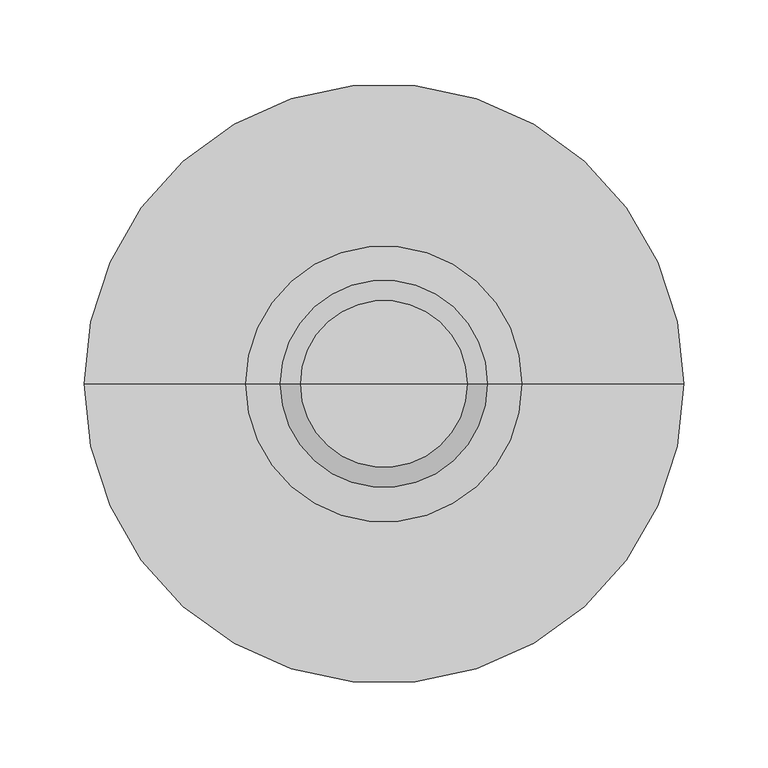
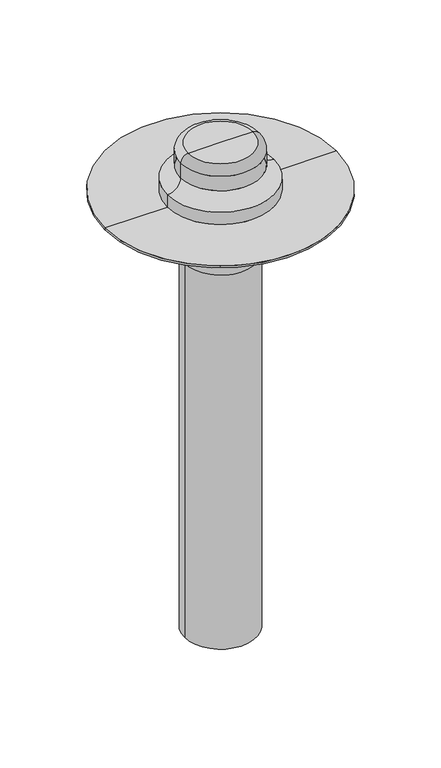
"""IFC4 building model written with IfcOpenShell, lengths in millimetres: flow terminal geometry, BIMLIB_Воронка_Кровельная_Fachmann_VM : 110х720."""

from ifc_helpers import new_model, si_unit, point, frame, origin, origin_with_axes, place, context, project, spatial, polyline, circle_curve, ellipse_curve, trimmed, source, transform, mapped, element, save
from ifc_brep_helpers import plane_surface, cylinder_surface, revolved_surface, advanced_brep


def flow_terminal_2865b695(model_context):
    return source(origin(), model_context, "Body", "AdvancedBrep", [
        advanced_brep(
        [(55.0, 0.0, -705.0), (-55.0, 0.0, -705.0), (-55.0, 0.0, -98.0), (55.0, 0.0, -98.0), (-113.0, 0.0, -9.0), (113.0, 0.0, -9.0), (113.0, 0.0, -32.0), (-113.0, 0.0, -32.0), (0.0, 0.0, 0.0), (138.0, 0.0, 0.0), (-138.0, 0.0, 0.0), (-90.0, 0.0, -32.0), (90.0, 0.0, -32.0), (90.0, 0.0, -40.0), (-90.0, 0.0, -40.0)],
        [
            (0, 1, circle_curve(frame((0.0, 0.0, -705.0), z_axis=(0.0, 0.0, -1.0), x_axis=(-1.0, 0.0, 0.0)), 55.0)),
            (1, 0, circle_curve(frame((0.0, 0.0, -705.0), z_axis=(0.0, 0.0, -1.0), x_axis=(-1.0, 0.0, 0.0)), 55.0)),
            (1, 2),
            (2, 3, circle_curve(frame((0.0, 0.0, -98.0), z_axis=(0.0, 0.0, -1.0), x_axis=(-1.0, 0.0, 0.0)), 55.0)),
            (3, 0),
            (3, 2, circle_curve(frame((0.0, 0.0, -98.0), z_axis=(0.0, 0.0, -1.0), x_axis=(-1.0, 0.0, 0.0)), 55.0)),
            (4, 5, circle_curve(frame((0.0, 0.0, -9.0), z_axis=(0.0, 0.0, -1.0), x_axis=(1.0, 0.0, 0.0)), 113.0)),
            (5, 6),
            (6, 7, circle_curve(frame((0.0, 0.0, -32.0), z_axis=(0.0, 0.0, 1.0), x_axis=(1.0, 0.0, 0.0)), 113.0)),
            (7, 4),
            (5, 4, circle_curve(frame((0.0, 0.0, -9.0), z_axis=(0.0, 0.0, -1.0), x_axis=(1.0, 0.0, 0.0)), 113.0)),
            (7, 6, circle_curve(frame((0.0, 0.0, -32.0), z_axis=(0.0, 0.0, 1.0), x_axis=(1.0, 0.0, 0.0)), 113.0)),
            (8, 9),
            (9, 10, circle_curve(origin_with_axes(), 138.0)),
            (10, 8),
            (10, 9, circle_curve(origin_with_axes(), 138.0)),
            (4, 10),
            (9, 5),
            (11, 12, circle_curve(frame((0.0, 0.0, -32.0), z_axis=(0.0, 0.0, -1.0), x_axis=(1.0, 0.0, 0.0)), 90.0)),
            (12, 13),
            (13, 14, circle_curve(frame((0.0, 0.0, -40.0), z_axis=(0.0, 0.0, 1.0), x_axis=(1.0, 0.0, 0.0)), 90.0)),
            (14, 11),
            (12, 11, circle_curve(frame((0.0, 0.0, -32.0), z_axis=(0.0, 0.0, -1.0), x_axis=(1.0, 0.0, 0.0)), 90.0)),
            (14, 13, circle_curve(frame((0.0, 0.0, -40.0), z_axis=(0.0, 0.0, 1.0), x_axis=(1.0, 0.0, 0.0)), 90.0)),
            (6, 12),
            (11, 7),
            (13, 3),
            (2, 14),
        ],
        [
            plane_surface(frame((-55.0, 0.0, -705.0), z_axis=(0.0, 0.0, -1.0), x_axis=(0.0, 1.0, 0.0))),
            cylinder_surface(frame((0.0, 0.0, -705.0), z_axis=(0.0, 0.0, 1.0), x_axis=(-1.0, 0.0, 0.0)), 55.0),
            cylinder_surface(frame((0.0, 0.0, 159.0), z_axis=(0.0, 0.0, 1.0), x_axis=(1.0, 0.0, 0.0)), 113.0),
            plane_surface(origin_with_axes()),
            revolved_surface(polyline([(113.0, 0.0, -9.0), (138.0, 0.0, 0.0)]), (0.0, 0.0, 159.0), (0.0, 0.0, 1.0)),
            cylinder_surface(frame((0.0, 0.0, 159.0), z_axis=(0.0, 0.0, 1.0), x_axis=(1.0, 0.0, 0.0)), 90.0),
            plane_surface(frame((0.0, 0.0, -32.0), z_axis=(0.0, 0.0, -1.0), x_axis=(1.0, 0.0, 0.0))),
            revolved_surface(polyline([(55.0, 0.0, -98.0), (90.0, 0.0, -40.0)]), (0.0, 0.0, 159.0), (0.0, 0.0, 1.0)),
        ],
        [
            (0, [[1, 2]]),
            (1, [[-2, 3, 4, 5]]),
            (1, [[-1, -5, 6, -3]]),
            (2, [[7, 8, 9, 10]]),
            (2, [[-8, 11, -10, 12]]),
            (3, [[13, 14, 15]]),
            (3, [[-13, -15, 16]]),
            (4, [[-7, 17, -14, 18]]),
            (4, [[-11, -18, -16, -17]]),
            (5, [[19, 20, 21, 22]]),
            (5, [[-20, 23, -22, 24]]),
            (6, [[-9, 25, -19, 26]]),
            (6, [[-12, -26, -23, -25]]),
            (7, [[-21, 27, -4, 28]]),
            (7, [[-24, -28, -6, -27]]),
        ],
    ),
        advanced_brep(
        [(0.0, 0.0, 79.0), (49.5, 0.0, 79.0), (-49.5, 0.0, 79.0), (-178.0, 0.0, 0.0), (178.0, 0.0, 0.0), (0.0, 0.0, 0.0), (-178.0, 0.0, 3.0), (178.0, 0.0, 3.0), (-82.0, 0.0, 3.0), (82.0, 0.0, 3.0), (-61.5, 0.0, 67.0), (61.5, 0.0, 67.0), (61.5, 0.0, 43.5), (-61.5, 0.0, 43.5), (-82.0, 0.0, 23.0), (82.0, 0.0, 23.0)],
        [
            (0, 1),
            (1, 2, circle_curve(frame((0.0, 0.0, 79.0), z_axis=(0.0, 0.0, 1.0), x_axis=(1.0, 0.0, 0.0)), 49.5)),
            (2, 0),
            (2, 1, circle_curve(frame((0.0, 0.0, 79.0), z_axis=(0.0, 0.0, 1.0), x_axis=(1.0, 0.0, 0.0)), 49.5)),
            (3, 4, circle_curve(frame((0.0, 0.0, 0.0), z_axis=(0.0, 0.0, -1.0), x_axis=(1.0, 0.0, 0.0)), 178.0)),
            (4, 5),
            (5, 3),
            (4, 3, circle_curve(frame((0.0, 0.0, 0.0), z_axis=(0.0, 0.0, -1.0), x_axis=(1.0, 0.0, 0.0)), 178.0)),
            (6, 7, circle_curve(frame((0.0, 0.0, 3.0), z_axis=(0.0, 0.0, -1.0), x_axis=(1.0, 0.0, 0.0)), 178.0)),
            (7, 4),
            (3, 6),
            (7, 6, circle_curve(frame((0.0, 0.0, 3.0), z_axis=(0.0, 0.0, -1.0), x_axis=(1.0, 0.0, 0.0)), 178.0)),
            (8, 9, circle_curve(frame((0.0, 0.0, 3.0), z_axis=(0.0, 0.0, -1.0), x_axis=(1.0, 0.0, 0.0)), 82.0)),
            (9, 7),
            (6, 8),
            (9, 8, circle_curve(frame((0.0, 0.0, 3.0), z_axis=(0.0, 0.0, -1.0), x_axis=(1.0, 0.0, 0.0)), 82.0)),
            (10, 11, circle_curve(frame((0.0, 0.0, 67.0), z_axis=(0.0, 0.0, -1.0), x_axis=(1.0, 0.0, 0.0)), 61.5)),
            (11, 12),
            (12, 13, circle_curve(frame((0.0, 0.0, 43.5), z_axis=(0.0, 0.0, 1.0), x_axis=(1.0, 0.0, 0.0)), 61.5)),
            (13, 10),
            (11, 10, circle_curve(frame((0.0, 0.0, 67.0), z_axis=(0.0, 0.0, -1.0), x_axis=(1.0, 0.0, 0.0)), 61.5)),
            (13, 12, circle_curve(frame((0.0, 0.0, 43.5), z_axis=(0.0, 0.0, 1.0), x_axis=(1.0, 0.0, 0.0)), 61.5)),
            (1, 11, circle_curve(frame((49.5, 0.0, 67.0), z_axis=(0.0, 1.0, 0.0), x_axis=(1.0, 0.0, 0.0)), 12.0)),
            (10, 2, circle_curve(frame((-49.5, 0.0, 67.0), z_axis=(0.0, 1.0, 0.0), x_axis=(-1.0, 0.0, 0.0)), 12.0)),
            (14, 15, circle_curve(frame((0.0, 0.0, 23.0), z_axis=(0.0, 0.0, -1.0), x_axis=(1.0, 0.0, 0.0)), 82.0)),
            (15, 9),
            (8, 14),
            (15, 14, circle_curve(frame((0.0, 0.0, 23.0), z_axis=(0.0, 0.0, -1.0), x_axis=(1.0, 0.0, 0.0)), 82.0)),
            (12, 15, circle_curve(frame((82.0, 0.0, 43.5), z_axis=(0.0, -1.0, 0.0), x_axis=(1.0, 0.0, 0.0)), 20.5)),
            (14, 13, circle_curve(frame((-82.0, 0.0, 43.5), z_axis=(0.0, -1.0, 0.0), x_axis=(-1.0, 0.0, 0.0)), 20.5)),
        ],
        [
            plane_surface(frame((0.0, 0.0, 79.0), z_axis=(0.0, 0.0, 1.0), x_axis=(1.0, 0.0, 0.0))),
            plane_surface(frame((0.0, 0.0, 0.0), z_axis=(0.0, 0.0, -1.0), x_axis=(1.0, 0.0, 0.0))),
            cylinder_surface(frame((0.0, 0.0, 229.0), z_axis=(0.0, 0.0, 1.0), x_axis=(1.0, 0.0, 0.0)), 178.0),
            plane_surface(frame((0.0, 0.0, 3.0), z_axis=(0.0, 0.0, 1.0), x_axis=(1.0, 0.0, 0.0))),
            cylinder_surface(frame((0.0, 0.0, 229.0), z_axis=(0.0, 0.0, 1.0), x_axis=(1.0, 0.0, 0.0)), 61.5),
            revolved_surface(trimmed(ellipse_curve(frame((49.5, 0.0, 67.0), z_axis=(0.0, -1.0, 0.0), x_axis=(1.0, 0.0, 0.0)), 12.0, 12.0), [point((61.5, 0.0, 67.0))], [point((49.5, 0.0, 79.0))], True, "CARTESIAN"), (0.0, 0.0, 229.0), (0.0, 0.0, 1.0)),
            cylinder_surface(frame((0.0, 0.0, 229.0), z_axis=(0.0, 0.0, 1.0), x_axis=(1.0, 0.0, 0.0)), 82.0),
            revolved_surface(trimmed(ellipse_curve(frame((82.0, 0.0, 43.5), z_axis=(0.0, 1.0, 0.0), x_axis=(1.0, 0.0, 0.0)), 20.5, 20.5), [point((82.0, 0.0, 23.0))], [point((61.5, 0.0, 43.5))], True, "CARTESIAN"), (0.0, 0.0, 229.0), (0.0, 0.0, 1.0)),
        ],
        [
            (0, [[1, 2, 3]]),
            (0, [[-3, 4, -1]]),
            (1, [[5, 6, 7]]),
            (1, [[8, -7, -6]]),
            (2, [[9, 10, -5, 11]]),
            (2, [[12, -11, -8, -10]]),
            (3, [[13, 14, -9, 15]]),
            (3, [[16, -15, -12, -14]]),
            (4, [[17, 18, 19, 20]]),
            (4, [[21, -20, 22, -18]]),
            (5, [[-2, 23, -17, 24]]),
            (5, [[-4, -24, -21, -23]]),
            (6, [[25, 26, -13, 27]]),
            (6, [[28, -27, -16, -26]]),
            (7, [[-19, 29, -25, 30]]),
            (7, [[-22, -30, -28, -29]]),
        ],
    ),
    ])


if __name__ == "__main__":
    model = new_model("IFC4")
    model_context = context("Model", 3, world=origin())
    ifc_project = project(units=[si_unit("LENGTHUNIT", "METRE", prefix="MILLI")], contexts=[model_context])
    site = spatial("IfcSite", under=ifc_project)
    building = spatial("IfcBuilding", under=site)
    placement = place(None, origin())
    flow_terminal_shape = flow_terminal_2865b695(model_context)
    element("IfcFlowTerminal", 1, ObjectType="BIMLIB_Воронка_Кровельная_Fachmann_VM : 110х720", at=placement, inside=building, context=model_context, shape_type="MappedRepresentation", body=[
        mapped(flow_terminal_shape, transform((0.0, 0.0, 0.0), x_axis=(1.0, 0.0, 0.0), y_axis=(0.0, 1.0, 0.0), z_axis=(0.0, 0.0, 1.0))),
    ])
    save(model, "model.ifc")
